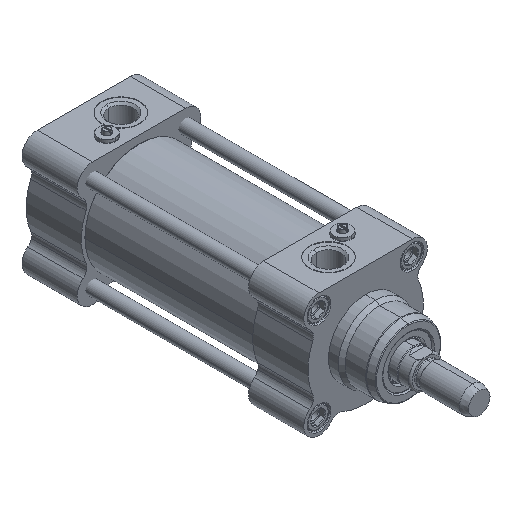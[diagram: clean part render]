
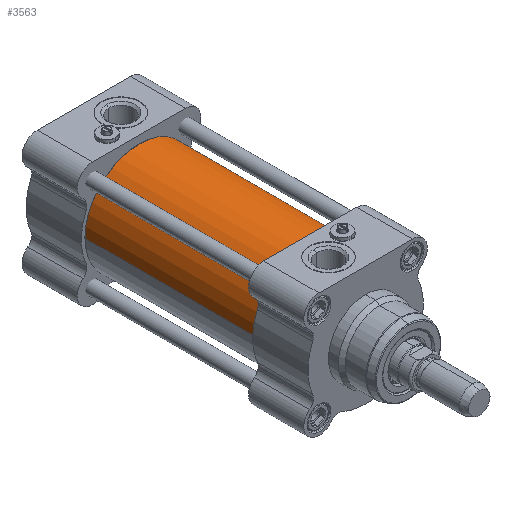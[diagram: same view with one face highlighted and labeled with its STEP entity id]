
A CAD part, isometric view. The second image highlights one B-rep face of the part: STEP entity #3563.
In plain terms, the highlighted cylindrical face has radius 33 mm (diameter 66 mm), a partial arc.
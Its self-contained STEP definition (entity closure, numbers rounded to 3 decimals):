
#706 = DIRECTION ( 'NONE',  ( 0., -1., 0. ) ) ;
#1484 = EDGE_CURVE ( 'NONE', #11583, #6684, #16157, .T. ) ;
#1805 = CARTESIAN_POINT ( 'NONE',  ( -33., -51.8, 0. ) ) ;
#2263 = LINE ( 'NONE', #17114, #8711 ) ;
#2626 = DIRECTION ( 'NONE',  ( 0., 1., 0. ) ) ;
#2763 = DIRECTION ( 'NONE',  ( 0., 1., 0. ) ) ;
#3563 = ADVANCED_FACE ( 'NONE', ( #9337 ), #5697, .T. ) ;
#3856 = VERTEX_POINT ( 'NONE', #13417 ) ;
#4503 = CARTESIAN_POINT ( 'NONE',  ( -33., 51.8, 0. ) ) ;
#5697 = CYLINDRICAL_SURFACE ( 'NONE', #9523, 33. ) ;
#6044 = CIRCLE ( 'NONE', #14993, 33. ) ;
#6283 = VERTEX_POINT ( 'NONE', #15138 ) ;
#6684 = VERTEX_POINT ( 'NONE', #4503 ) ;
#6894 = ORIENTED_EDGE ( 'NONE', *, *, #13911, .F. ) ;
#7148 = DIRECTION ( 'NONE',  ( 1., 0., 0. ) ) ;
#8117 = DIRECTION ( 'NONE',  ( 1., 0., 0. ) ) ;
#8711 = VECTOR ( 'NONE', #2626, 1000. ) ;
#9223 = CARTESIAN_POINT ( 'NONE',  ( 0., 0., 0. ) ) ;
#9337 = FACE_OUTER_BOUND ( 'NONE', #20474, .T. ) ;
#9523 = AXIS2_PLACEMENT_3D ( 'NONE', #9223, #11163, #7148 ) ;
#10211 = AXIS2_PLACEMENT_3D ( 'NONE', #19219, #706, #8117 ) ;
#10614 = CIRCLE ( 'NONE', #10211, 33. ) ;
#11163 = DIRECTION ( 'NONE',  ( 0., 1., 0. ) ) ;
#11583 = VERTEX_POINT ( 'NONE', #1805 ) ;
#12138 = CARTESIAN_POINT ( 'NONE',  ( -33., 0., 0. ) ) ;
#13254 = VECTOR ( 'NONE', #2763, 1000. ) ;
#13417 = CARTESIAN_POINT ( 'NONE',  ( 33., -51.8, 0. ) ) ;
#13911 = EDGE_CURVE ( 'NONE', #3856, #11583, #10614, .T. ) ;
#14014 = ORIENTED_EDGE ( 'NONE', *, *, #16482, .F. ) ;
#14409 = DIRECTION ( 'NONE',  ( 1., 0., 0. ) ) ;
#14873 = ORIENTED_EDGE ( 'NONE', *, *, #16341, .T. ) ;
#14993 = AXIS2_PLACEMENT_3D ( 'NONE', #19688, #16011, #14409 ) ;
#15138 = CARTESIAN_POINT ( 'NONE',  ( 33., 51.8, 0. ) ) ;
#16011 = DIRECTION ( 'NONE',  ( 0., 1., 0. ) ) ;
#16157 = LINE ( 'NONE', #12138, #13254 ) ;
#16341 = EDGE_CURVE ( 'NONE', #3856, #6283, #2263, .T. ) ;
#16482 = EDGE_CURVE ( 'NONE', #6684, #6283, #6044, .T. ) ;
#17114 = CARTESIAN_POINT ( 'NONE',  ( 33., 0., 0. ) ) ;
#19219 = CARTESIAN_POINT ( 'NONE',  ( 0., -51.8, 0. ) ) ;
#19688 = CARTESIAN_POINT ( 'NONE',  ( 0., 51.8, 0. ) ) ;
#20474 = EDGE_LOOP ( 'NONE', ( #22009, #6894, #14873, #14014 ) ) ;
#22009 = ORIENTED_EDGE ( 'NONE', *, *, #1484, .F. ) ;
